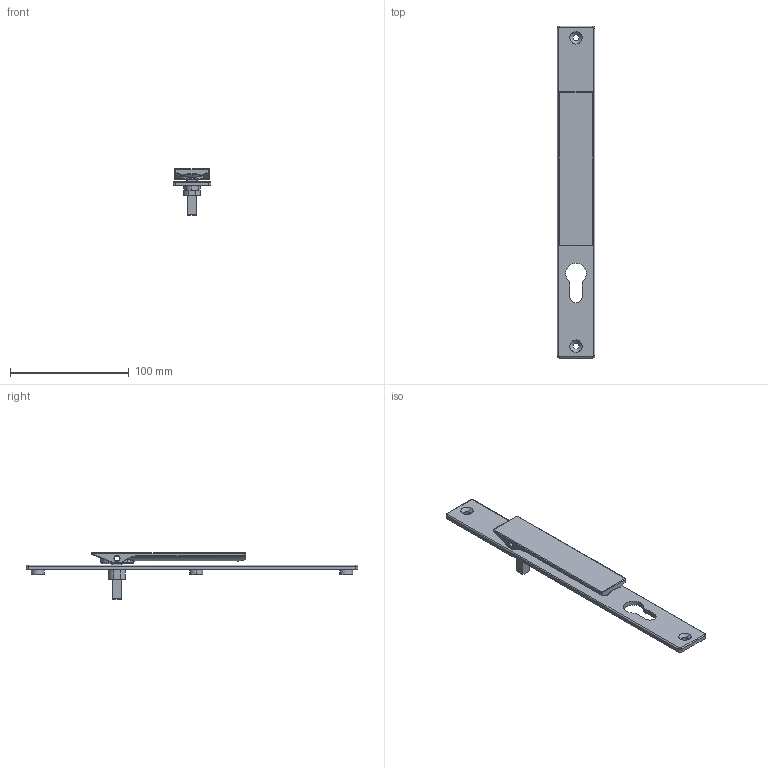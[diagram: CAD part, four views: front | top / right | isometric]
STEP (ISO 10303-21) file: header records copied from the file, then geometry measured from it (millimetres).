
FILE_DESCRIPTION (( 'STEP AP203' ), '1' );
FILE_NAME ('TPL-SS-002-25-C 23Apr2026.STEP', '2026-04-24T00:13:19', ( '' ), ( '' ), 'SwSTEP 2.0', 'SolidWorks 2023', '' );
FILE_SCHEMA (( 'CONFIG_CONTROL_DESIGN' ));
Length unit declared in the file: millimetre
Products named in the file (6): TPL-SS-002-25-C 23Apr2026; Copy of LKC-584 Pivot body zinc - simplified^TPL-SS-002 22Apr2026; Copy of Escutcheon plate keyed internal 280mm - simplified^TPL-SS-002 22Apr2026; Copy of LKC-506 Swing handle SS - simplified^TPL-SS-002 22Apr2026; Copy of LKC-586 Spindle square 8mm with M4 hole - simplified^TPL-SS-002 22Apr2026_25mm; Copy of LKC-585 Rotator body zinc - simplified^TPL-SS-002 22Apr2026
Assembly tree (5 placements, depth 2):
  TPL-SS-002-25-C 23Apr2026
    Copy of Escutcheon plate keyed internal 280mm - simplified^TPL-SS-002 22Apr2026
    Copy of LKC-586 Spindle square 8mm with M4 hole - simplified^TPL-SS-002 22Apr2026_25mm
    Copy of LKC-584 Pivot body zinc - simplified^TPL-SS-002 22Apr2026
    Copy of LKC-585 Rotator body zinc - simplified^TPL-SS-002 22Apr2026
    Copy of LKC-506 Swing handle SS - simplified^TPL-SS-002 22Apr2026
Bounding box: 32 x 280 x 39.55 mm (x, y, z)
Volume: 58744.9 mm3; surface area: 33785.9 mm2
Topology: 5 solids, 5 shells, 298 faces, 712 edges, 430 vertices
Faces by surface type: cylinder 113, plane 81, bspline 44, torus 36, cone 22, sphere 2
Entity records: 10250 total; most frequent: CARTESIAN_POINT 2934, ORIENTED_EDGE 1420, DIRECTION 1411, EDGE_CURVE 710, AXIS2_PLACEMENT_3D 559, VERTEX_POINT 430, EDGE_LOOP 332, ADVANCED_FACE 298
